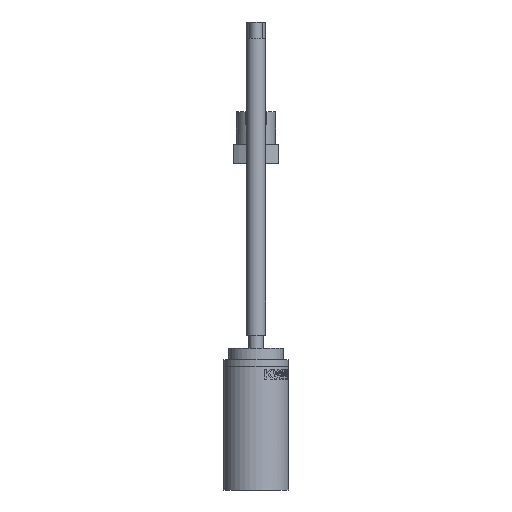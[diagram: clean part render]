
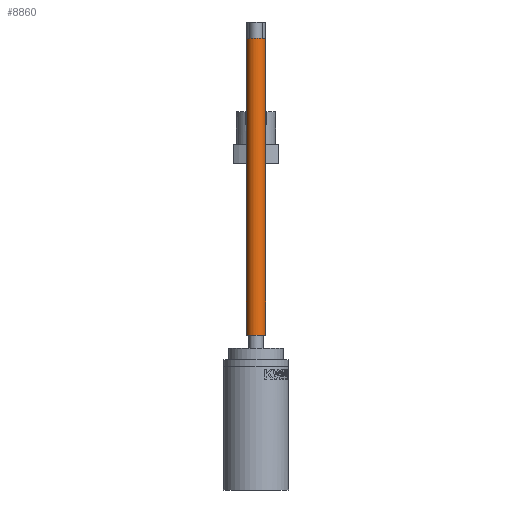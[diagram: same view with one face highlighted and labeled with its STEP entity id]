
A CAD part, left-side view. The second image highlights one B-rep face of the part: STEP entity #8860.
In plain terms, the highlighted cylindrical face has radius 1.5 mm (diameter 3 mm), a full revolution.
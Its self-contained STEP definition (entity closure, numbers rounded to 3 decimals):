
#8860=ADVANCED_FACE('',(#9607,#9608),#9072,.T.);
#9072=CYLINDRICAL_SURFACE('',#20315,1.5);
#9607=FACE_BOUND('',#10867,.T.);
#9608=FACE_BOUND('',#10868,.T.);
#10867=EDGE_LOOP('',(#14974));
#10868=EDGE_LOOP('',(#14975));
#14974=ORIENTED_EDGE('',*,*,#18652,.F.);
#14975=ORIENTED_EDGE('',*,*,#18653,.T.);
#16560=VERTEX_POINT('',#45092);
#16561=VERTEX_POINT('',#45094);
#18652=EDGE_CURVE('',#16560,#16560,#19145,.T.);
#18653=EDGE_CURVE('',#16561,#16561,#19146,.T.);
#19145=CIRCLE('',#20313,1.5);
#19146=CIRCLE('',#20314,1.5);
#20313=AXIS2_PLACEMENT_3D('',#45091,#23053,#23054);
#20314=AXIS2_PLACEMENT_3D('',#45093,#23055,#23056);
#20315=AXIS2_PLACEMENT_3D('',#45095,#23057,#23058);
#23053=DIRECTION('',(0.,0.,-1.));
#23054=DIRECTION('',(-1.,0.,0.));
#23055=DIRECTION('',(0.,0.,-1.));
#23056=DIRECTION('',(-1.,0.,0.));
#23057=DIRECTION('',(0.,0.,-1.));
#23058=DIRECTION('',(-1.,0.,0.));
#45091=CARTESIAN_POINT('',(-62.,0.,23.75));
#45092=CARTESIAN_POINT('',(-63.5,0.,23.75));
#45093=CARTESIAN_POINT('',(-62.,0.,69.25));
#45094=CARTESIAN_POINT('',(-63.5,0.,69.25));
#45095=CARTESIAN_POINT('',(-62.,0.,20.));
